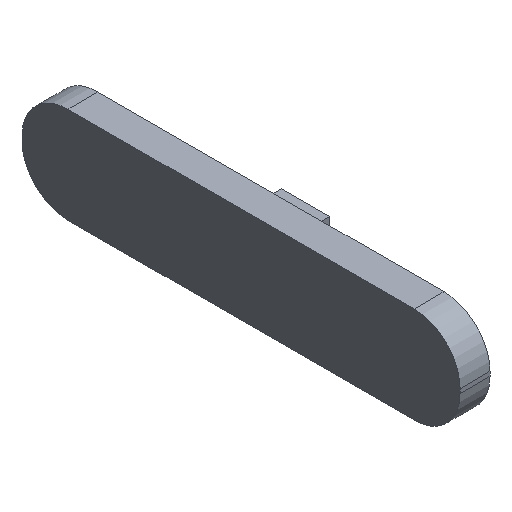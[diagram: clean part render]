
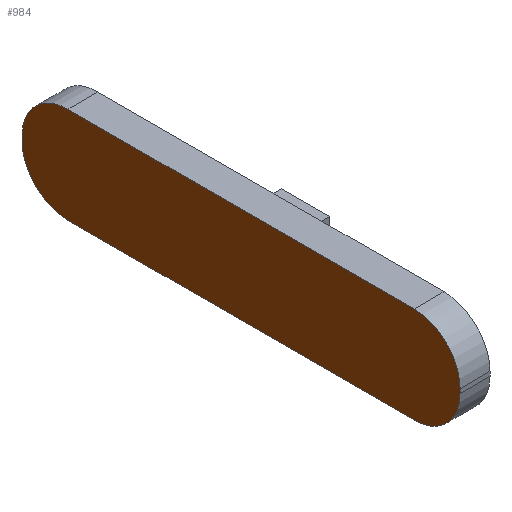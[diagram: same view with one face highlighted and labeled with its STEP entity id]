
A CAD part, isometric view. The second image highlights one B-rep face of the part: STEP entity #984.
In plain terms, the highlighted planar face has unit normal (-1, 0, 0).
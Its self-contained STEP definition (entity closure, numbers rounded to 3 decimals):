
#327 = PLANE('',#328);
#328 = AXIS2_PLACEMENT_3D('',#329,#330,#331);
#329 = CARTESIAN_POINT('',(-44.6,-17.5,-3.));
#330 = DIRECTION('',(0.,1.,0.));
#331 = DIRECTION('',(0.,0.,1.));
#356 = CYLINDRICAL_SURFACE('',#357,4.3);
#357 = AXIS2_PLACEMENT_3D('',#358,#359,#360);
#358 = CARTESIAN_POINT('',(-44.6,-13.2,1.3));
#359 = DIRECTION('',(1.,0.,0.));
#360 = DIRECTION('',(0.,-1.,0.));
#384 = PLANE('',#385);
#385 = AXIS2_PLACEMENT_3D('',#386,#387,#388);
#386 = CARTESIAN_POINT('',(-44.6,-17.5,-3.));
#387 = DIRECTION('',(0.,0.,1.));
#388 = DIRECTION('',(1.,0.,0.));
#417 = CYLINDRICAL_SURFACE('',#418,4.3);
#418 = AXIS2_PLACEMENT_3D('',#419,#420,#421);
#419 = CARTESIAN_POINT('',(-44.6,19.2,1.3));
#420 = DIRECTION('',(1.,0.,0.));
#421 = DIRECTION('',(-0.,1.,0.));
#445 = PLANE('',#446);
#446 = AXIS2_PLACEMENT_3D('',#447,#448,#449);
#447 = CARTESIAN_POINT('',(-44.6,23.5,-3.));
#448 = DIRECTION('',(0.,1.,0.));
#449 = DIRECTION('',(0.,0.,1.));
#474 = CYLINDRICAL_SURFACE('',#475,4.3);
#475 = AXIS2_PLACEMENT_3D('',#476,#477,#478);
#476 = CARTESIAN_POINT('',(-44.6,19.2,1.7));
#477 = DIRECTION('',(1.,0.,0.));
#478 = DIRECTION('',(-0.,1.,0.));
#502 = PLANE('',#503);
#503 = AXIS2_PLACEMENT_3D('',#504,#505,#506);
#504 = CARTESIAN_POINT('',(-44.6,-17.5,6.));
#505 = DIRECTION('',(0.,0.,1.));
#506 = DIRECTION('',(1.,0.,0.));
#533 = CYLINDRICAL_SURFACE('',#534,4.3);
#534 = AXIS2_PLACEMENT_3D('',#535,#536,#537);
#535 = CARTESIAN_POINT('',(-44.6,-13.2,1.7));
#536 = DIRECTION('',(1.,0.,0.));
#537 = DIRECTION('',(0.,-1.,0.));
#581 = VERTEX_POINT('',#582);
#582 = CARTESIAN_POINT('',(-44.6,-17.5,1.3));
#603 = EDGE_CURVE('',#581,#604,#606,.T.);
#604 = VERTEX_POINT('',#605);
#605 = CARTESIAN_POINT('',(-44.6,-17.5,1.7));
#606 = SURFACE_CURVE('',#607,(#611,#618),.PCURVE_S1.);
#607 = LINE('',#608,#609);
#608 = CARTESIAN_POINT('',(-44.6,-17.5,-3.));
#609 = VECTOR('',#610,1.);
#610 = DIRECTION('',(0.,0.,1.));
#611 = PCURVE('',#327,#612);
#612 = DEFINITIONAL_REPRESENTATION('',(#613),#617);
#613 = LINE('',#614,#615);
#614 = CARTESIAN_POINT('',(0.,0.));
#615 = VECTOR('',#616,1.);
#616 = DIRECTION('',(1.,0.));
#617 = ( GEOMETRIC_REPRESENTATION_CONTEXT(2) 
PARAMETRIC_REPRESENTATION_CONTEXT() REPRESENTATION_CONTEXT('2D SPACE',''
  ) );
#618 = PCURVE('',#619,#624);
#619 = PLANE('',#620);
#620 = AXIS2_PLACEMENT_3D('',#621,#622,#623);
#621 = CARTESIAN_POINT('',(-44.6,-17.5,-3.));
#622 = DIRECTION('',(1.,0.,0.));
#623 = DIRECTION('',(0.,0.,1.));
#624 = DEFINITIONAL_REPRESENTATION('',(#625),#629);
#625 = LINE('',#626,#627);
#626 = CARTESIAN_POINT('',(0.,0.));
#627 = VECTOR('',#628,1.);
#628 = DIRECTION('',(1.,0.));
#629 = ( GEOMETRIC_REPRESENTATION_CONTEXT(2) 
PARAMETRIC_REPRESENTATION_CONTEXT() REPRESENTATION_CONTEXT('2D SPACE',''
  ) );
#655 = EDGE_CURVE('',#581,#656,#658,.T.);
#656 = VERTEX_POINT('',#657);
#657 = CARTESIAN_POINT('',(-44.6,-13.2,-3.));
#658 = SURFACE_CURVE('',#659,(#664,#671),.PCURVE_S1.);
#659 = CIRCLE('',#660,4.3);
#660 = AXIS2_PLACEMENT_3D('',#661,#662,#663);
#661 = CARTESIAN_POINT('',(-44.6,-13.2,1.3));
#662 = DIRECTION('',(1.,0.,0.));
#663 = DIRECTION('',(-0.,0.,1.));
#664 = PCURVE('',#356,#665);
#665 = DEFINITIONAL_REPRESENTATION('',(#666),#670);
#666 = LINE('',#667,#668);
#667 = CARTESIAN_POINT('',(-1.571,0.));
#668 = VECTOR('',#669,1.);
#669 = DIRECTION('',(1.,0.));
#670 = ( GEOMETRIC_REPRESENTATION_CONTEXT(2) 
PARAMETRIC_REPRESENTATION_CONTEXT() REPRESENTATION_CONTEXT('2D SPACE',''
  ) );
#671 = PCURVE('',#619,#672);
#672 = DEFINITIONAL_REPRESENTATION('',(#673),#677);
#673 = CIRCLE('',#674,4.3);
#674 = AXIS2_PLACEMENT_2D('',#675,#676);
#675 = CARTESIAN_POINT('',(4.3,-4.3));
#676 = DIRECTION('',(1.,0.));
#677 = ( GEOMETRIC_REPRESENTATION_CONTEXT(2) 
PARAMETRIC_REPRESENTATION_CONTEXT() REPRESENTATION_CONTEXT('2D SPACE',''
  ) );
#705 = EDGE_CURVE('',#604,#706,#708,.T.);
#706 = VERTEX_POINT('',#707);
#707 = CARTESIAN_POINT('',(-44.6,-13.2,6.));
#708 = SURFACE_CURVE('',#709,(#714,#721),.PCURVE_S1.);
#709 = CIRCLE('',#710,4.3);
#710 = AXIS2_PLACEMENT_3D('',#711,#712,#713);
#711 = CARTESIAN_POINT('',(-44.6,-13.2,1.7));
#712 = DIRECTION('',(-1.,0.,-0.));
#713 = DIRECTION('',(-0.,0.,1.));
#714 = PCURVE('',#533,#715);
#715 = DEFINITIONAL_REPRESENTATION('',(#716),#720);
#716 = LINE('',#717,#718);
#717 = CARTESIAN_POINT('',(4.712,-0.));
#718 = VECTOR('',#719,1.);
#719 = DIRECTION('',(-1.,0.));
#720 = ( GEOMETRIC_REPRESENTATION_CONTEXT(2) 
PARAMETRIC_REPRESENTATION_CONTEXT() REPRESENTATION_CONTEXT('2D SPACE',''
  ) );
#721 = PCURVE('',#619,#722);
#722 = DEFINITIONAL_REPRESENTATION('',(#723),#731);
#723 = ( BOUNDED_CURVE() B_SPLINE_CURVE(2,(#724,#725,#726,#727,#728,#729
,#730),.UNSPECIFIED.,.T.,.F.) B_SPLINE_CURVE_WITH_KNOTS((1,2,2,2,2,1),(
    -2.094,0.,2.094,4.189,6.283,
8.378),.UNSPECIFIED.) CURVE() GEOMETRIC_REPRESENTATION_ITEM() 
RATIONAL_B_SPLINE_CURVE((1.,0.5,1.,0.5,1.,0.5,1.)) REPRESENTATION_ITEM(
  '') );
#724 = CARTESIAN_POINT('',(9.,-4.3));
#725 = CARTESIAN_POINT('',(9.,-11.748));
#726 = CARTESIAN_POINT('',(2.55,-8.024));
#727 = CARTESIAN_POINT('',(-3.9,-4.3));
#728 = CARTESIAN_POINT('',(2.55,-0.576));
#729 = CARTESIAN_POINT('',(9.,3.148));
#730 = CARTESIAN_POINT('',(9.,-4.3));
#731 = ( GEOMETRIC_REPRESENTATION_CONTEXT(2) 
PARAMETRIC_REPRESENTATION_CONTEXT() REPRESENTATION_CONTEXT('2D SPACE',''
  ) );
#759 = EDGE_CURVE('',#656,#760,#762,.T.);
#760 = VERTEX_POINT('',#761);
#761 = CARTESIAN_POINT('',(-44.6,19.2,-3.));
#762 = SURFACE_CURVE('',#763,(#767,#774),.PCURVE_S1.);
#763 = LINE('',#764,#765);
#764 = CARTESIAN_POINT('',(-44.6,-17.5,-3.));
#765 = VECTOR('',#766,1.);
#766 = DIRECTION('',(0.,1.,0.));
#767 = PCURVE('',#384,#768);
#768 = DEFINITIONAL_REPRESENTATION('',(#769),#773);
#769 = LINE('',#770,#771);
#770 = CARTESIAN_POINT('',(0.,0.));
#771 = VECTOR('',#772,1.);
#772 = DIRECTION('',(0.,1.));
#773 = ( GEOMETRIC_REPRESENTATION_CONTEXT(2) 
PARAMETRIC_REPRESENTATION_CONTEXT() REPRESENTATION_CONTEXT('2D SPACE',''
  ) );
#774 = PCURVE('',#619,#775);
#775 = DEFINITIONAL_REPRESENTATION('',(#776),#780);
#776 = LINE('',#777,#778);
#777 = CARTESIAN_POINT('',(0.,0.));
#778 = VECTOR('',#779,1.);
#779 = DIRECTION('',(0.,-1.));
#780 = ( GEOMETRIC_REPRESENTATION_CONTEXT(2) 
PARAMETRIC_REPRESENTATION_CONTEXT() REPRESENTATION_CONTEXT('2D SPACE',''
  ) );
#808 = EDGE_CURVE('',#706,#809,#811,.T.);
#809 = VERTEX_POINT('',#810);
#810 = CARTESIAN_POINT('',(-44.6,19.2,6.));
#811 = SURFACE_CURVE('',#812,(#816,#823),.PCURVE_S1.);
#812 = LINE('',#813,#814);
#813 = CARTESIAN_POINT('',(-44.6,-17.5,6.));
#814 = VECTOR('',#815,1.);
#815 = DIRECTION('',(0.,1.,0.));
#816 = PCURVE('',#502,#817);
#817 = DEFINITIONAL_REPRESENTATION('',(#818),#822);
#818 = LINE('',#819,#820);
#819 = CARTESIAN_POINT('',(0.,0.));
#820 = VECTOR('',#821,1.);
#821 = DIRECTION('',(0.,1.));
#822 = ( GEOMETRIC_REPRESENTATION_CONTEXT(2) 
PARAMETRIC_REPRESENTATION_CONTEXT() REPRESENTATION_CONTEXT('2D SPACE',''
  ) );
#823 = PCURVE('',#619,#824);
#824 = DEFINITIONAL_REPRESENTATION('',(#825),#829);
#825 = LINE('',#826,#827);
#826 = CARTESIAN_POINT('',(9.,0.));
#827 = VECTOR('',#828,1.);
#828 = DIRECTION('',(0.,-1.));
#829 = ( GEOMETRIC_REPRESENTATION_CONTEXT(2) 
PARAMETRIC_REPRESENTATION_CONTEXT() REPRESENTATION_CONTEXT('2D SPACE',''
  ) );
#857 = EDGE_CURVE('',#858,#760,#860,.T.);
#858 = VERTEX_POINT('',#859);
#859 = CARTESIAN_POINT('',(-44.6,23.5,1.3));
#860 = SURFACE_CURVE('',#861,(#866,#873),.PCURVE_S1.);
#861 = CIRCLE('',#862,4.3);
#862 = AXIS2_PLACEMENT_3D('',#863,#864,#865);
#863 = CARTESIAN_POINT('',(-44.6,19.2,1.3));
#864 = DIRECTION('',(-1.,0.,-0.));
#865 = DIRECTION('',(-0.,0.,1.));
#866 = PCURVE('',#417,#867);
#867 = DEFINITIONAL_REPRESENTATION('',(#868),#872);
#868 = LINE('',#869,#870);
#869 = CARTESIAN_POINT('',(1.571,-0.));
#870 = VECTOR('',#871,1.);
#871 = DIRECTION('',(-1.,0.));
#872 = ( GEOMETRIC_REPRESENTATION_CONTEXT(2) 
PARAMETRIC_REPRESENTATION_CONTEXT() REPRESENTATION_CONTEXT('2D SPACE',''
  ) );
#873 = PCURVE('',#619,#874);
#874 = DEFINITIONAL_REPRESENTATION('',(#875),#883);
#875 = ( BOUNDED_CURVE() B_SPLINE_CURVE(2,(#876,#877,#878,#879,#880,#881
,#882),.UNSPECIFIED.,.T.,.F.) B_SPLINE_CURVE_WITH_KNOTS((1,2,2,2,2,1),(
    -2.094,0.,2.094,4.189,6.283,
8.378),.UNSPECIFIED.) CURVE() GEOMETRIC_REPRESENTATION_ITEM() 
RATIONAL_B_SPLINE_CURVE((1.,0.5,1.,0.5,1.,0.5,1.)) REPRESENTATION_ITEM(
  '') );
#876 = CARTESIAN_POINT('',(8.6,-36.7));
#877 = CARTESIAN_POINT('',(8.6,-44.148));
#878 = CARTESIAN_POINT('',(2.15,-40.424));
#879 = CARTESIAN_POINT('',(-4.3,-36.7));
#880 = CARTESIAN_POINT('',(2.15,-32.976));
#881 = CARTESIAN_POINT('',(8.6,-29.252));
#882 = CARTESIAN_POINT('',(8.6,-36.7));
#883 = ( GEOMETRIC_REPRESENTATION_CONTEXT(2) 
PARAMETRIC_REPRESENTATION_CONTEXT() REPRESENTATION_CONTEXT('2D SPACE',''
  ) );
#911 = EDGE_CURVE('',#912,#809,#914,.T.);
#912 = VERTEX_POINT('',#913);
#913 = CARTESIAN_POINT('',(-44.6,23.5,1.7));
#914 = SURFACE_CURVE('',#915,(#920,#927),.PCURVE_S1.);
#915 = CIRCLE('',#916,4.3);
#916 = AXIS2_PLACEMENT_3D('',#917,#918,#919);
#917 = CARTESIAN_POINT('',(-44.6,19.2,1.7));
#918 = DIRECTION('',(1.,0.,0.));
#919 = DIRECTION('',(-0.,0.,1.));
#920 = PCURVE('',#474,#921);
#921 = DEFINITIONAL_REPRESENTATION('',(#922),#926);
#922 = LINE('',#923,#924);
#923 = CARTESIAN_POINT('',(-4.712,0.));
#924 = VECTOR('',#925,1.);
#925 = DIRECTION('',(1.,0.));
#926 = ( GEOMETRIC_REPRESENTATION_CONTEXT(2) 
PARAMETRIC_REPRESENTATION_CONTEXT() REPRESENTATION_CONTEXT('2D SPACE',''
  ) );
#927 = PCURVE('',#619,#928);
#928 = DEFINITIONAL_REPRESENTATION('',(#929),#933);
#929 = CIRCLE('',#930,4.3);
#930 = AXIS2_PLACEMENT_2D('',#931,#932);
#931 = CARTESIAN_POINT('',(4.7,-36.7));
#932 = DIRECTION('',(1.,0.));
#933 = ( GEOMETRIC_REPRESENTATION_CONTEXT(2) 
PARAMETRIC_REPRESENTATION_CONTEXT() REPRESENTATION_CONTEXT('2D SPACE',''
  ) );
#963 = EDGE_CURVE('',#858,#912,#964,.T.);
#964 = SURFACE_CURVE('',#965,(#969,#976),.PCURVE_S1.);
#965 = LINE('',#966,#967);
#966 = CARTESIAN_POINT('',(-44.6,23.5,-3.));
#967 = VECTOR('',#968,1.);
#968 = DIRECTION('',(0.,0.,1.));
#969 = PCURVE('',#445,#970);
#970 = DEFINITIONAL_REPRESENTATION('',(#971),#975);
#971 = LINE('',#972,#973);
#972 = CARTESIAN_POINT('',(0.,0.));
#973 = VECTOR('',#974,1.);
#974 = DIRECTION('',(1.,0.));
#975 = ( GEOMETRIC_REPRESENTATION_CONTEXT(2) 
PARAMETRIC_REPRESENTATION_CONTEXT() REPRESENTATION_CONTEXT('2D SPACE',''
  ) );
#976 = PCURVE('',#619,#977);
#977 = DEFINITIONAL_REPRESENTATION('',(#978),#982);
#978 = LINE('',#979,#980);
#979 = CARTESIAN_POINT('',(0.,-41.));
#980 = VECTOR('',#981,1.);
#981 = DIRECTION('',(1.,0.));
#982 = ( GEOMETRIC_REPRESENTATION_CONTEXT(2) 
PARAMETRIC_REPRESENTATION_CONTEXT() REPRESENTATION_CONTEXT('2D SPACE',''
  ) );
#984 = ADVANCED_FACE('',(#985),#619,.F.);
#985 = FACE_BOUND('',#986,.F.);
#986 = EDGE_LOOP('',(#987,#988,#989,#990,#991,#992,#993,#994));
#987 = ORIENTED_EDGE('',*,*,#603,.F.);
#988 = ORIENTED_EDGE('',*,*,#655,.T.);
#989 = ORIENTED_EDGE('',*,*,#759,.T.);
#990 = ORIENTED_EDGE('',*,*,#857,.F.);
#991 = ORIENTED_EDGE('',*,*,#963,.T.);
#992 = ORIENTED_EDGE('',*,*,#911,.T.);
#993 = ORIENTED_EDGE('',*,*,#808,.F.);
#994 = ORIENTED_EDGE('',*,*,#705,.F.);
